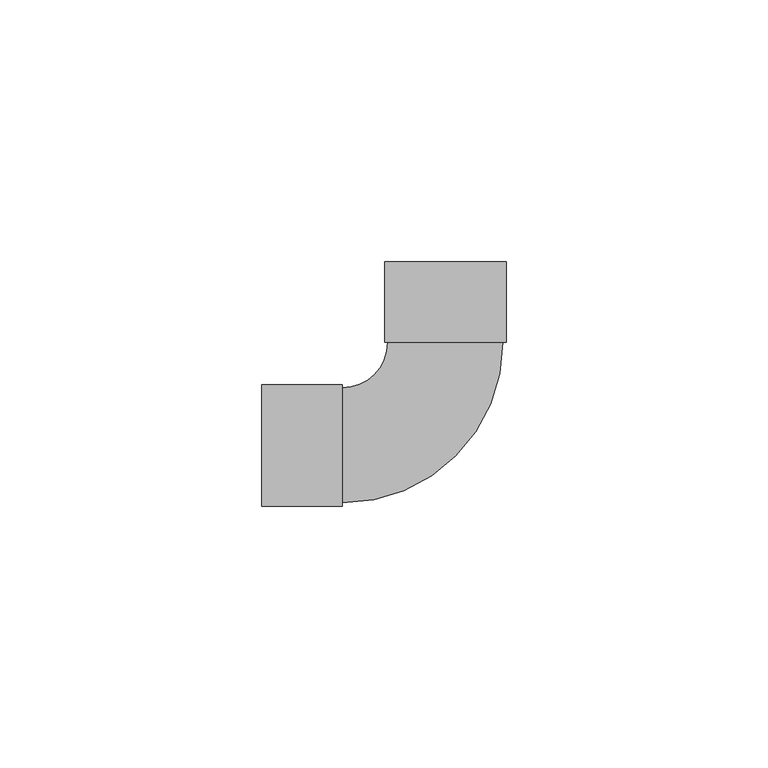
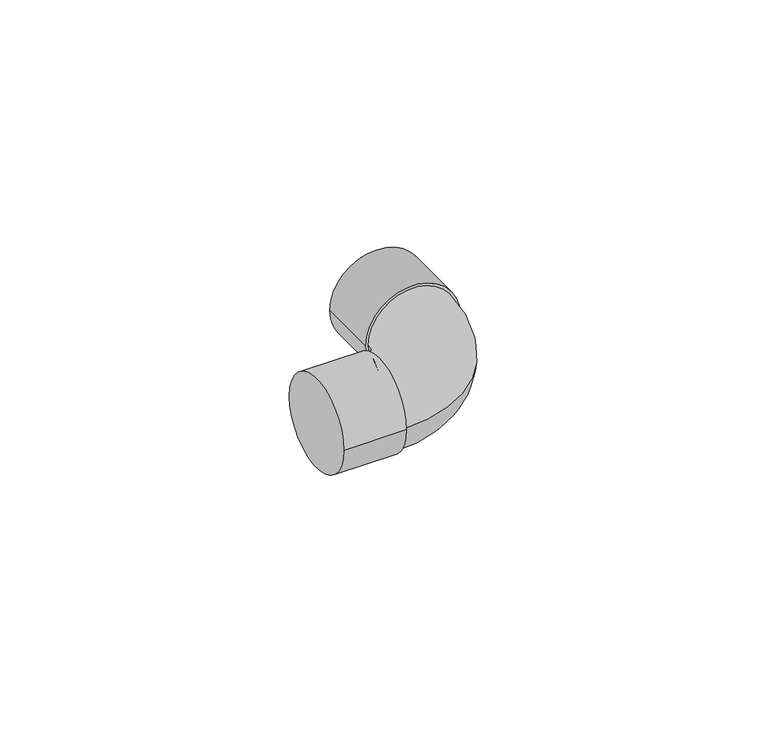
"""IFC4 building model written with IfcOpenShell, lengths in millimetres: pipe fitting geometry, Cotovelo - Cobre : Cotovelo - Cobre."""

import ifcopenshell
import ifcopenshell.guid

model = None  # the IFC model being written
_history = None  # IfcOwnerHistory: only IFC2X3 demands one
_inside = {}  # id of a spatial element -> (the spatial element, [elements in it])
_under = {}  # id of a project, library or spatial element -> (it, [spatial elements below it])
_declared = {}  # id of a project -> (the project, [libraries it declares])
_typed = {}  # id of a type object -> (the type object, [elements of that type])
_made_of = {}  # id of a material, layer set ... -> (it, [elements and type objects made of it])


def new_model(schema):
    """Start an empty IFC model of exactly this schema.

    Asked for "IFC4X3", IfcOpenShell would pick the latest addendum, in which some entities
    have other attributes; the version numbers below select the first issue.
    IFC2X3 requires an IfcOwnerHistory on every rooted entity: one is made here for all.
    """
    global model, _history
    if schema == "IFC4X3":
        model = ifcopenshell.file(schema_version=(4, 3, 0, 0))
    else:
        model = ifcopenshell.file(schema=schema)
    _inside.clear()
    _under.clear()
    _declared.clear()
    _typed.clear()
    _made_of.clear()
    _history = None
    if model.schema == "IFC2X3":
        org = make("IfcOrganization", Name="unknown")
        user = make(
            "IfcPersonAndOrganization",
            ThePerson=make("IfcPerson", FamilyName="unknown"),
            TheOrganization=org,
        )
        app = make(
            "IfcApplication",
            ApplicationDeveloper=org,
            Version="unknown",
            ApplicationFullName="unknown",
            ApplicationIdentifier="unknown",
        )
        _history = make(
            "IfcOwnerHistory",
            OwningUser=user,
            OwningApplication=app,
            ChangeAction="ADDED",
            CreationDate=0,
        )
    return model


def make(cls, **values):
    """One entity of the class cls with the attributes given. An attribute that is None is left unset."""
    return model.create_entity(
        cls, **{name: value for name, value in values.items() if value is not None}
    )


def rooted(cls, **values):
    """An entity with a GlobalId (a new one), such as an element, a storey or a relation."""
    return make(cls, GlobalId=ifcopenshell.guid.new(), OwnerHistory=_history, **values)


def si_unit(unit_type, name, prefix=None):
    """IfcSIUnit, for example si_unit("LENGTHUNIT", "METRE", prefix="MILLI")."""
    return make("IfcSIUnit", UnitType=unit_type, Prefix=prefix, Name=name)


def assignment(units):
    """IfcUnitAssignment: the units of a project."""
    return None if units is None else make("IfcUnitAssignment", Units=units)


def point(xyz):
    """IfcCartesianPoint."""
    return None if xyz is None else make("IfcCartesianPoint", Coordinates=xyz)


def direction(xyz):
    """IfcDirection."""
    return None if xyz is None else make("IfcDirection", DirectionRatios=xyz)


def frame(location, z_axis=None, x_axis=None):
    """IfcAxis2Placement3D, a coordinate frame: its origin and axes. An axis left out is left unset."""
    return make(
        "IfcAxis2Placement3D",
        Location=point(location),
        Axis=direction(z_axis),
        RefDirection=direction(x_axis),
    )


def origin():
    """The frame at (0, 0, 0) with its axes left unset."""
    return frame((0.0, 0.0, 0.0))


def place(relative_to, where):
    """IfcLocalPlacement: puts the frame where relative to a parent placement (None: the world)."""
    return make(
        "IfcLocalPlacement", PlacementRelTo=relative_to, RelativePlacement=where
    )


def context(
    kind, dimensions, precision=None, world=None, true_north=None, identifier=None
):
    """IfcGeometricRepresentationContext, for example the 3D "Model" context."""
    return make(
        "IfcGeometricRepresentationContext",
        ContextIdentifier=identifier,
        ContextType=kind,
        CoordinateSpaceDimension=dimensions,
        Precision=precision,
        WorldCoordinateSystem=world,
        TrueNorth=true_north,
    )


def project(units=None, contexts=None):
    """IfcProject with its units and contexts."""
    return rooted(
        "IfcProject",
        Name="project",
        RepresentationContexts=contexts,
        UnitsInContext=assignment(units),
    )


def spatial(cls, under=None, at=None, **own):
    """A site, building, storey or space (cls), placed at a placement, below another one or the project."""
    s = rooted(cls, ObjectPlacement=at, **own)
    if under is not None:
        _under.setdefault(under.id(), (under, []))[1].append(s)
    return s


def circle_curve(where, radius):
    """IfcCircle in the frame where."""
    return make("IfcCircle", Position=where, Radius=radius)


def ellipse_curve(where, semi_axis1, semi_axis2):
    """IfcEllipse in the frame where."""
    return make(
        "IfcEllipse", Position=where, SemiAxis1=semi_axis1, SemiAxis2=semi_axis2
    )


def trimmed(basis, trim1, trim2, sense, master):
    """IfcTrimmedCurve: the piece of a basis curve between two trims."""
    return make(
        "IfcTrimmedCurve",
        BasisCurve=basis,
        Trim1=trim1,
        Trim2=trim2,
        SenseAgreement=sense,
        MasterRepresentation=master,
    )


def shape(context_of_items, identifier, shape_type, items):
    """IfcShapeRepresentation: the items that make up one representation, for example the "Body"."""
    return make(
        "IfcShapeRepresentation",
        ContextOfItems=context_of_items,
        RepresentationIdentifier=identifier,
        RepresentationType=shape_type,
        Items=items,
    )


def source(mapping_origin, context_of_items, identifier, shape_type, items):
    """IfcRepresentationMap: a shape defined once, which mapped items show again and again."""
    return make(
        "IfcRepresentationMap",
        MappingOrigin=mapping_origin,
        MappedRepresentation=shape(context_of_items, identifier, shape_type, items),
    )


def transform(
    local_origin,
    x_axis=None,
    y_axis=None,
    z_axis=None,
    scale=None,
    scale2=None,
    scale3=None,
    uniform=True,
):
    """IfcCartesianTransformationOperator3D, or its non-uniform kind. x_axis, y_axis, z_axis: its Axis1, 2, 3."""
    if uniform:
        return make(
            "IfcCartesianTransformationOperator3D",
            Axis1=direction(x_axis),
            Axis2=direction(y_axis),
            LocalOrigin=point(local_origin),
            Scale=scale,
            Axis3=direction(z_axis),
        )
    return make(
        "IfcCartesianTransformationOperator3DnonUniform",
        Axis1=direction(x_axis),
        Axis2=direction(y_axis),
        LocalOrigin=point(local_origin),
        Scale=scale,
        Axis3=direction(z_axis),
        Scale2=scale2,
        Scale3=scale3,
    )


def mapped(mapping_source, mapping_target):
    """IfcMappedItem: shows the shape of a source again, moved by a transform."""
    return make(
        "IfcMappedItem", MappingSource=mapping_source, MappingTarget=mapping_target
    )


def made_of(thing, what):
    """Note that an element or type object is made of a material, layer set ...; save() writes the relation."""
    if what is not None:
        _made_of.setdefault(what.id(), (what, []))[1].append(thing)
    return thing


def element(
    cls,
    number,
    at=None,
    inside=None,
    cuts=None,
    type_object=None,
    material=None,
    context=None,
    identifier="Body",
    shape_type=None,
    held_by="IfcProductDefinitionShape",
    body=None,
    shapes=None,
    **own,
):
    """One element of the class cls, such as IfcWall. Its Tag is "e" and its number.

    at: its placement. inside: the storey or other place that contains it. cuts: it is an
    opening in that element (IfcRelVoidsElement). A single representation is given by context,
    identifier, shape_type and body (its items); several are given by shapes. held_by: the class
    of the entity that holds the representations. save() writes the other relations.
    """
    e = rooted(cls, Tag="e%d" % number, ObjectPlacement=at, **own)
    if body is not None:
        shapes = [shape(context, identifier, shape_type, body)]
    if shapes is not None:
        e.Representation = make(held_by, Representations=shapes)
    if inside is not None:
        _inside.setdefault(inside.id(), (inside, []))[1].append(e)
    if cuts is not None:
        rooted(
            "IfcRelVoidsElement", RelatingBuildingElement=cuts, RelatedOpeningElement=e
        )
    if type_object is not None:
        _typed.setdefault(type_object.id(), (type_object, []))[1].append(e)
    return made_of(e, material)


def aggregate(whole, parts):
    """IfcRelAggregates: a whole, such as a stair, and the parts it consists of."""
    return rooted("IfcRelAggregates", RelatingObject=whole, RelatedObjects=parts)


def save(model, path):
    """Write the relations noted so far, then the file.

    IfcRelAggregates (storeys below a building ...), IfcRelContainedInSpatialStructure (elements
    in a storey), IfcRelDefinesByType, IfcRelAssociatesMaterial and IfcRelDeclares: one each for
    every whole, place, type object, material and project.
    """
    for whole, parts in _under.values():
        aggregate(whole, parts)
    for where, things in _inside.values():
        rooted(
            "IfcRelContainedInSpatialStructure",
            RelatedElements=things,
            RelatingStructure=where,
        )
    for kind, things in _typed.values():
        rooted("IfcRelDefinesByType", RelatedObjects=things, RelatingType=kind)
    for what, things in _made_of.values():
        rooted("IfcRelAssociatesMaterial", RelatedObjects=things, RelatingMaterial=what)
    for by, libraries in _declared.values():
        rooted("IfcRelDeclares", RelatingContext=by, RelatedDefinitions=libraries)
    model.write(path)


def plane_surface(at):
    """IfcPlane: the flat surface through the origin of the frame at, square to its z axis."""
    return make("IfcPlane", Position=at)


def cylinder_surface(at, radius):
    """IfcCylindricalSurface: all points at the distance radius from the z axis of the frame at."""
    return make("IfcCylindricalSurface", Position=at, Radius=radius)


def revolved_surface(curve, axis_point, axis_direction):
    """IfcSurfaceOfRevolution: the curve turned about the line through axis_point along axis_direction."""
    return make(
        "IfcSurfaceOfRevolution",
        SweptCurve=make("IfcArbitraryOpenProfileDef", ProfileType="CURVE", Curve=curve),
        AxisPosition=make("IfcAxis1Placement", Location=point(axis_point), Axis=direction(axis_direction)),
    )


def advanced_brep(points, edges, surfaces, faces):
    """IfcAdvancedBrep: a solid bounded by faces that lie on surfaces and meet in shared edges.

    An edge is (start, end): straight between two places in points (the first is 0);
    or (start, end, curve); or (start, end, curve, False) where it runs against its curve.
    A face is (place in surfaces, loops), or (place, loops, False) where it looks against
    its surface's normal. A loop lists edges by number (the first is 1), with a minus sign
    where the edge is run from its end to its start. The first loop is the outer one.
    """
    corners = [point(p) for p in points]
    vertices = [make("IfcVertexPoint", VertexGeometry=c) for c in corners]
    made = []
    for start, end, *more in edges:
        made.append(
            make(
                "IfcEdgeCurve",
                EdgeStart=vertices[start],
                EdgeEnd=vertices[end],
                EdgeGeometry=more[0] if more else make("IfcPolyline", Points=[corners[start], corners[end]]),
                SameSense=more[1] if len(more) > 1 else True,
            )
        )
    hull = []
    for where, loops, *sense in faces:
        bounds = []
        for j, loop in enumerate(loops):
            ring = [make("IfcOrientedEdge", EdgeElement=made[abs(k) - 1], Orientation=k > 0) for k in loop]
            bounds.append(
                make(
                    "IfcFaceOuterBound" if j == 0 else "IfcFaceBound",
                    Bound=make("IfcEdgeLoop", EdgeList=ring),
                    Orientation=True,
                )
            )
        hull.append(make("IfcAdvancedFace", Bounds=bounds, FaceSurface=surfaces[where], SameSense=sense[0] if sense else True))
    return make("IfcAdvancedBrep", Outer=make("IfcClosedShell", CfsFaces=hull))


def pipe_fitting_e3d966fa(model_context):
    return source(origin(), model_context, "Body", "AdvancedBrep", [
        advanced_brep(
        [(-11.0, 19.7, 0.0), (-19.7, 11.0, 0.0), (-19.7, -11.0, 0.0), (11.0, 19.7, 0.0), (-35.1, -11.63, 0.0), (-35.1, 11.63, 0.0), (-19.7, -11.63, 0.0), (-19.7, 11.63, 0.0), (-11.63, 35.1, 0.0), (11.63, 35.1, 0.0), (-11.63, 19.7, 0.0), (11.63, 19.7, 0.0)],
        [
            (0, 1, circle_curve(frame((-19.7, 19.7, 0.0), z_axis=(0.0, 0.0, -1.0), x_axis=(0.0, -1.0, 0.0)), 8.7)),
            (1, 2, circle_curve(frame((-19.7, 0.0, 0.0), z_axis=(1.0, 0.0, 0.0), x_axis=(0.0, 1.0, 0.0)), 11.0)),
            (2, 3, circle_curve(frame((-19.7, 19.7, 0.0), z_axis=(0.0, 0.0, 1.0), x_axis=(0.0, -1.0, 0.0)), 30.7)),
            (3, 0, circle_curve(frame((0.0, 19.7, 0.0), z_axis=(0.0, -1.0, 0.0), x_axis=(-1.0, 0.0, 0.0)), 11.0)),
            (0, 3, circle_curve(frame((0.0, 19.7, 0.0), z_axis=(0.0, -1.0, 0.0), x_axis=(-1.0, 0.0, 0.0)), 11.0)),
            (2, 1, circle_curve(frame((-19.7, 0.0, 0.0), z_axis=(1.0, 0.0, 0.0), x_axis=(0.0, 1.0, 0.0)), 11.0)),
            (4, 5, circle_curve(frame((-35.1, 0.0, 0.0), z_axis=(-1.0, 0.0, 0.0), x_axis=(0.0, 1.0, 0.0)), 11.63)),
            (5, 4, circle_curve(frame((-35.1, 0.0, 0.0), z_axis=(-1.0, 0.0, 0.0), x_axis=(0.0, 1.0, 0.0)), 11.63)),
            (6, 7, circle_curve(frame((-19.7, 0.0, 0.0), z_axis=(1.0, 0.0, 0.0), x_axis=(0.0, 1.0, 0.0)), 11.63)),
            (7, 6, circle_curve(frame((-19.7, 0.0, 0.0), z_axis=(1.0, 0.0, 0.0), x_axis=(0.0, 1.0, 0.0)), 11.63)),
            (4, 6),
            (7, 5),
            (8, 9, circle_curve(frame((0.0, 35.1, 0.0), z_axis=(0.0, 1.0, 0.0), x_axis=(1.0, 0.0, 0.0)), 11.63)),
            (9, 8, circle_curve(frame((0.0, 35.1, 0.0), z_axis=(0.0, 1.0, 0.0), x_axis=(1.0, 0.0, 0.0)), 11.63)),
            (10, 11, circle_curve(frame((0.0, 19.7, 0.0), z_axis=(0.0, -1.0, 0.0), x_axis=(1.0, 0.0, 0.0)), 11.63)),
            (11, 10, circle_curve(frame((0.0, 19.7, 0.0), z_axis=(0.0, -1.0, 0.0), x_axis=(1.0, 0.0, 0.0)), 11.63)),
            (8, 10),
            (11, 9),
        ],
        [
            revolved_surface(trimmed(ellipse_curve(frame((-19.7, 0.0, 0.0), z_axis=(-1.0, 0.0, 0.0), x_axis=(0.0, 1.0, 0.0)), 11.0, 11.0), [point((-19.7, -11.0, 0.0))], [point((-19.7, 11.0, 0.0))], True, "CARTESIAN"), (-19.7, 19.7, 0.0), (0.0, 0.0, 1.0)),
            revolved_surface(trimmed(ellipse_curve(frame((-19.7, 0.0, 0.0), z_axis=(-1.0, 0.0, 0.0), x_axis=(0.0, 1.0, 0.0)), 11.0, 11.0), [point((-19.7, 11.0, 0.0))], [point((-19.7, -11.0, 0.0))], True, "CARTESIAN"), (-19.7, 19.7, 0.0), (0.0, 0.0, 1.0)),
            plane_surface(frame((-35.1, 0.0, 0.0), z_axis=(-1.0, 0.0, 0.0), x_axis=(0.0, 0.0, 1.0))),
            plane_surface(frame((-19.7, 0.0, 0.0), z_axis=(1.0, 0.0, 0.0), x_axis=(0.0, 0.0, 1.0))),
            cylinder_surface(frame((-35.1, 0.0, 0.0), z_axis=(-1.0, 0.0, 0.0), x_axis=(0.0, 1.0, 0.0)), 11.63),
            plane_surface(frame((0.0, 35.1, 0.0), z_axis=(0.0, 1.0, 0.0), x_axis=(0.0, 0.0, 1.0))),
            plane_surface(frame((0.0, 19.7, 0.0), z_axis=(0.0, -1.0, 0.0), x_axis=(0.0, 0.0, 1.0))),
            cylinder_surface(frame((0.0, 35.1, 0.0), z_axis=(0.0, 1.0, 0.0), x_axis=(1.0, 0.0, 0.0)), 11.63),
        ],
        [
            (0, [[1, 2, 3, 4]]),
            (1, [[-1, 5, -3, 6]]),
            (2, [[7, 8]]),
            (3, [[9, 10], [-2, -6]]),
            (4, [[-7, 11, -10, 12]]),
            (4, [[-8, -12, -9, -11]]),
            (5, [[13, 14]]),
            (6, [[15, 16], [-4, -5]]),
            (7, [[-13, 17, -16, 18]]),
            (7, [[-14, -18, -15, -17]]),
        ],
    ),
    ])


if __name__ == "__main__":
    model = new_model("IFC4")
    model_context = context("Model", 3, world=origin())
    ifc_project = project(units=[si_unit("LENGTHUNIT", "METRE", prefix="MILLI")], contexts=[model_context])
    site = spatial("IfcSite", under=ifc_project)
    building = spatial("IfcBuilding", under=site)
    placement = place(None, origin())
    pipe_fitting_shape = pipe_fitting_e3d966fa(model_context)
    element("IfcPipeFitting", 1, ObjectType="Cotovelo - Cobre : Cotovelo - Cobre", at=placement, inside=building, context=model_context, shape_type="MappedRepresentation", body=[
        mapped(pipe_fitting_shape, transform((0.0, 0.0, 0.0), x_axis=(1.0, 0.0, 0.0), y_axis=(0.0, 1.0, 0.0), z_axis=(0.0, 0.0, 1.0))),
    ])
    save(model, "model.ifc")
